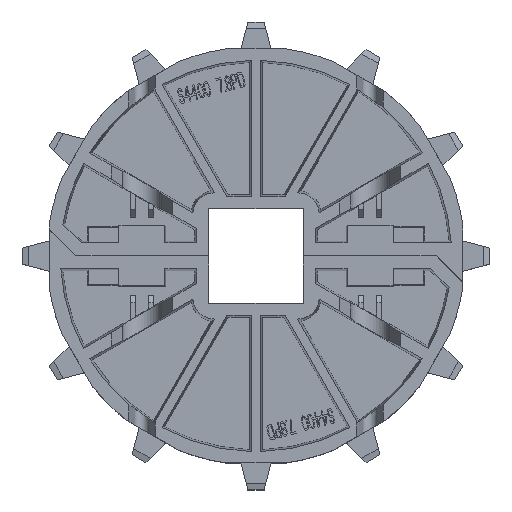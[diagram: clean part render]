
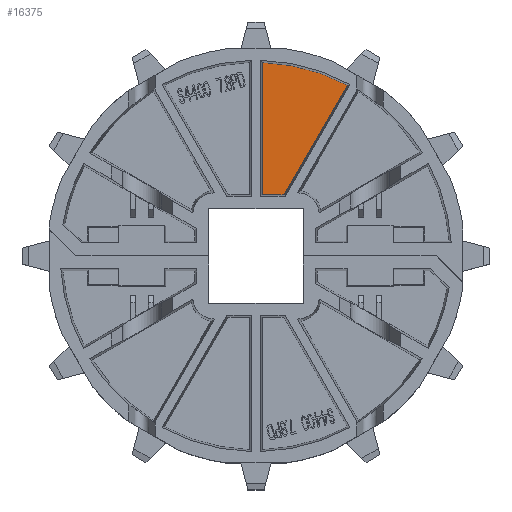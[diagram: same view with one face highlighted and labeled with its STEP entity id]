
A CAD part, top view. The second image highlights one B-rep face of the part: STEP entity #16375.
In plain terms, the highlighted planar face has unit normal (0, 0, 1).
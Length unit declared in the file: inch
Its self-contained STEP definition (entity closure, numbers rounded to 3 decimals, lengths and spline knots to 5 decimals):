
#2556=CARTESIAN_POINT('',(0.,0.,0.075));
#2557=DIRECTION('',(0.,0.,1.));
#2558=DIRECTION('',(0.471,0.882,0.));
#2559=AXIS2_PLACEMENT_3D('',#2556,#2557,#2558);
#2935=DIRECTION('',(-1.,0.,0.));
#2936=VECTOR('',#2935,0.36213);
#2937=CARTESIAN_POINT('',(0.46801,1.02238,0.075));
#2938=LINE('',#2937,#2936);
#2939=DIRECTION('',(0.,1.,0.));
#2940=VECTOR('',#2939,2.20404);
#2941=CARTESIAN_POINT('',(0.10588,1.02238,0.075));
#2942=LINE('',#2941,#2940);
#2943=DIRECTION('',(-0.5,-0.866,0.));
#2944=VECTOR('',#2943,2.10701);
#2945=CARTESIAN_POINT('',(1.52152,2.84711,0.075));
#2946=LINE('',#2945,#2944);
#10795=CARTESIAN_POINT('',(0.46801,1.02238,0.075));
#10796=CARTESIAN_POINT('',(0.10588,1.02238,0.075));
#10797=VERTEX_POINT('',#10795);
#10798=VERTEX_POINT('',#10796);
#10807=CARTESIAN_POINT('',(0.10588,3.22642,0.075));
#10808=VERTEX_POINT('',#10807);
#10809=CARTESIAN_POINT('',(1.52152,2.84711,0.075));
#10810=VERTEX_POINT('',#10809);
#16361=CARTESIAN_POINT('',(-2.55577,2.26282,0.075));
#16362=DIRECTION('',(0.,0.,-1.));
#16363=DIRECTION('',(0.5,-0.866,0.));
#16364=AXIS2_PLACEMENT_3D('',#16361,#16362,#16363);
#16365=PLANE('',#16364);
#16367=ORIENTED_EDGE('',*,*,#16366,.T.);
#16369=ORIENTED_EDGE('',*,*,#16368,.T.);
#16370=ORIENTED_EDGE('',*,*,#15697,.F.);
#16372=ORIENTED_EDGE('',*,*,#16371,.T.);
#16373=EDGE_LOOP('',(#16367,#16369,#16370,#16372));
#16374=FACE_OUTER_BOUND('',#16373,.F.);
#16375=ADVANCED_FACE('',(#16374),#16365,.F.);
#2560=CIRCLE('',#2559,3.22816);
#15697=EDGE_CURVE('',#10810,#10808,#2560,.T.);
#16366=EDGE_CURVE('',#10797,#10798,#2938,.T.);
#16368=EDGE_CURVE('',#10798,#10808,#2942,.T.);
#16371=EDGE_CURVE('',#10810,#10797,#2946,.T.);
